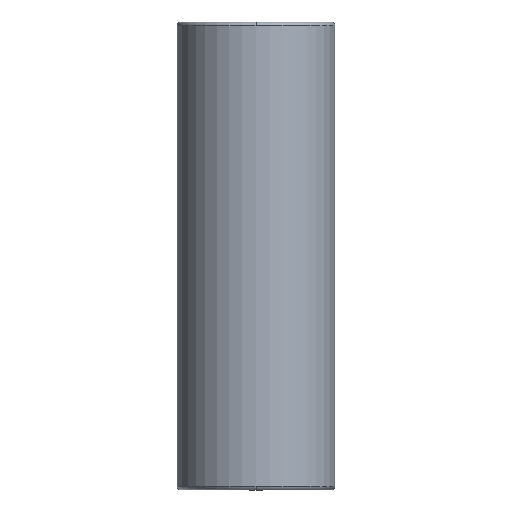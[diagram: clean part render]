
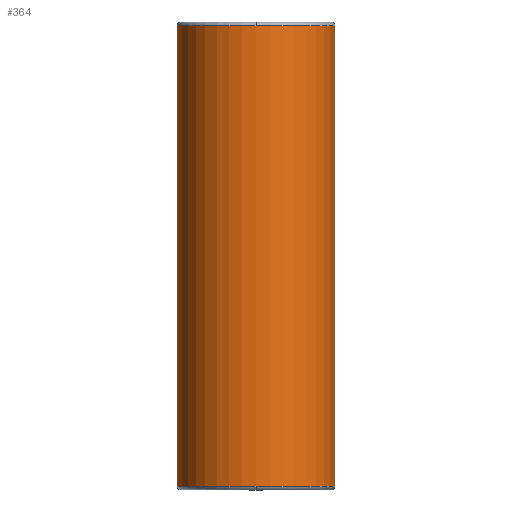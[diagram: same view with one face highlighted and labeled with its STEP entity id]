
A CAD part, front view. The second image highlights one B-rep face of the part: STEP entity #364.
In plain terms, the highlighted cylindrical face has radius 40.492 mm (diameter 80.984 mm), a partial arc.
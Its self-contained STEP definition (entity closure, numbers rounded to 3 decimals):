
#269=CARTESIAN_POINT('',(0.0,-40.492,238.));
#270=VERTEX_POINT('',#269);
#296=CARTESIAN_POINT('',(-40.492,0.,238.));
#297=VERTEX_POINT('',#296);
#305=CARTESIAN_POINT('',(0.0,0.,238.));
#306=DIRECTION('',(0.0,0.0,1.0));
#307=DIRECTION('',(1.0,0.0,0.0));
#308=AXIS2_PLACEMENT_3D('',#305,#306,#307);
#309=CIRCLE('',#308,40.492);
#310=EDGE_CURVE('',#297,#270,#309,.T.);
#315=CARTESIAN_POINT('',(0.0,0.,120.));
#316=DIRECTION('',(0.0,0.,1.0));
#317=DIRECTION('',(1.0,0.0,0.0));
#318=AXIS2_PLACEMENT_3D('',#315,#316,#317);
#319=CYLINDRICAL_SURFACE('',#318,40.492);
#320=CARTESIAN_POINT('',(40.492,0.,238.));
#321=VERTEX_POINT('',#320);
#322=CARTESIAN_POINT('',(40.492,0.,2.));
#323=VERTEX_POINT('',#322);
#324=CARTESIAN_POINT('',(40.492,0.,238.));
#325=DIRECTION('',(0.0,0.0,-1.0));
#326=VECTOR('',#325,236.);
#327=LINE('',#324,#326);
#328=EDGE_CURVE('',#321,#323,#327,.T.);
#329=ORIENTED_EDGE('',*,*,#328,.F.);
#330=CARTESIAN_POINT('',(0.0,0.,238.));
#331=DIRECTION('',(0.0,0.0,1.0));
#332=DIRECTION('',(1.0,0.0,0.0));
#333=AXIS2_PLACEMENT_3D('',#330,#331,#332);
#334=CIRCLE('',#333,40.492);
#335=EDGE_CURVE('',#270,#321,#334,.T.);
#336=ORIENTED_EDGE('',*,*,#335,.F.);
#337=ORIENTED_EDGE('',*,*,#310,.F.);
#338=CARTESIAN_POINT('',(-40.492,0.,2.0));
#339=VERTEX_POINT('',#338);
#340=CARTESIAN_POINT('',(-40.492,0.,238.));
#341=DIRECTION('',(0.0,0.0,-1.0));
#342=VECTOR('',#341,236.);
#343=LINE('',#340,#342);
#344=EDGE_CURVE('',#297,#339,#343,.T.);
#345=ORIENTED_EDGE('',*,*,#344,.T.);
#346=CARTESIAN_POINT('',(0.0,-40.492,2.));
#347=VERTEX_POINT('',#346);
#348=CARTESIAN_POINT('',(0.0,0.,2.0));
#349=DIRECTION('',(0.0,0.0,1.0));
#350=DIRECTION('',(1.0,0.0,0.0));
#351=AXIS2_PLACEMENT_3D('',#348,#349,#350);
#352=CIRCLE('',#351,40.492);
#353=EDGE_CURVE('',#339,#347,#352,.T.);
#354=ORIENTED_EDGE('',*,*,#353,.T.);
#355=CARTESIAN_POINT('',(0.0,0.,2.0));
#356=DIRECTION('',(0.0,0.0,1.0));
#357=DIRECTION('',(1.0,0.0,0.0));
#358=AXIS2_PLACEMENT_3D('',#355,#356,#357);
#359=CIRCLE('',#358,40.492);
#360=EDGE_CURVE('',#347,#323,#359,.T.);
#361=ORIENTED_EDGE('',*,*,#360,.T.);
#362=EDGE_LOOP('',(#329,#336,#337,#345,#354,#361));
#363=FACE_OUTER_BOUND('',#362,.T.);
#364=ADVANCED_FACE('',(#363),#319,.T.);
